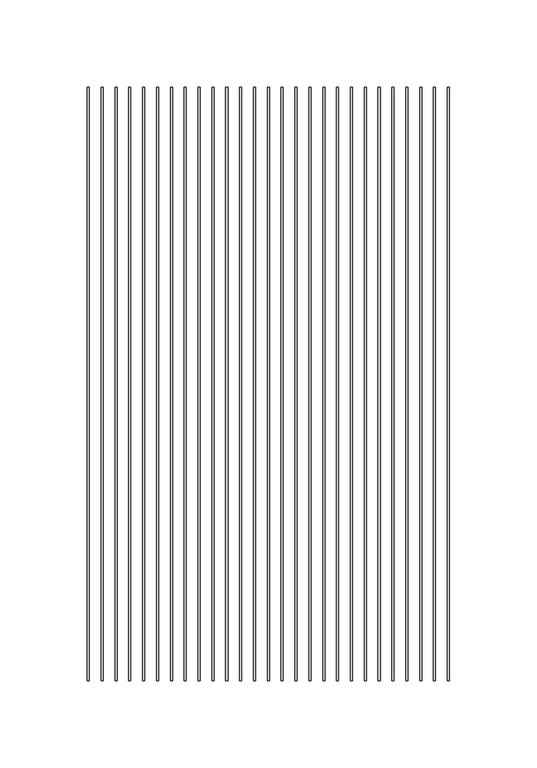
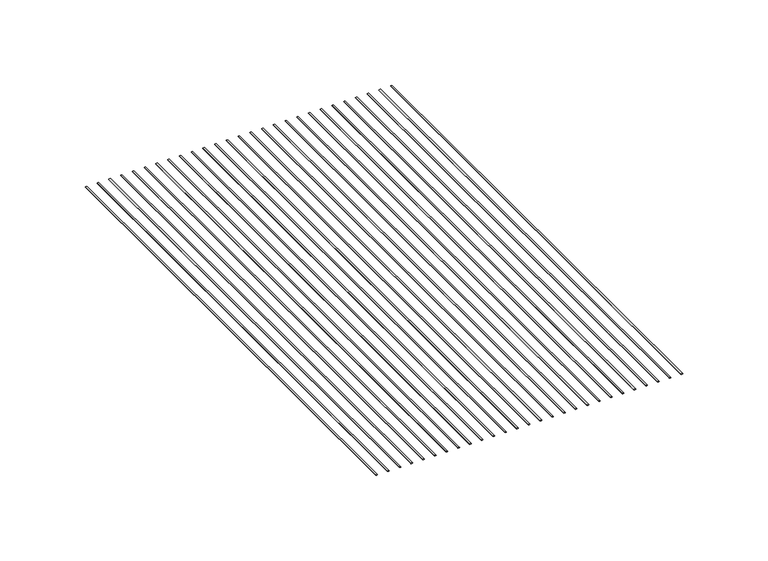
"""IFC4 building model written with IfcOpenShell, lengths in millimetres: proxy geometry, CRAi Generic Model Mesh Piece Face Based : Wider Mesh."""

from ifc_helpers import new_model, si_unit, point, frame, origin, place, context, project, spatial, ellipse_curve, trimmed, source, transform, mapped, element, save
from ifc_brep_helpers import plane_surface, extruded_surface, advanced_brep


def generic_models_e38217e9(model_context):
    return source(origin(), model_context, "Body", "AdvancedBrep", [
        advanced_brep(
        [(-14.0890625, -169.8625, -2.5796875), (-12.8984375, -169.8625, -2.5796875), (-14.0890625, 169.8625, -2.5796875), (-12.8984375, 169.8625, -2.5796875)],
        [
            (0, 1, ellipse_curve(frame((-13.49375, -169.8625, -2.5796875), z_axis=(0.0, -1.0, 0.0), x_axis=(1.0, 0.0, 0.0)), 0.5953125, 0.1984375)),
            (1, 0, ellipse_curve(frame((-13.49375, -169.8625, -2.5796875), z_axis=(0.0, -1.0, 0.0), x_axis=(1.0, 0.0, 0.0)), 0.5953125, 0.1984375)),
            (2, 3, ellipse_curve(frame((-13.49375, 169.8625, -2.5796875), z_axis=(0.0, 1.0, 0.0), x_axis=(1.0, 0.0, 0.0)), 0.5953125, 0.1984375)),
            (3, 2, ellipse_curve(frame((-13.49375, 169.8625, -2.5796875), z_axis=(0.0, 1.0, 0.0), x_axis=(1.0, 0.0, 0.0)), 0.5953125, 0.1984375)),
            (0, 2),
            (3, 1),
        ],
        [
            plane_surface(frame((-13.49375, -169.8625, -2.5796875), z_axis=(0.0, -1.0, 0.0), x_axis=(0.0, 0.0, 1.0))),
            plane_surface(frame((-13.49375, 169.8625, -2.5796875), z_axis=(0.0, 1.0, 0.0), x_axis=(0.0, 0.0, 1.0))),
            extruded_surface(trimmed(ellipse_curve(frame((-13.49375, 169.8625, -2.5796875), z_axis=(0.0, -1.0, 0.0), x_axis=(1.0, 0.0, 0.0)), 0.5953125, 0.1984375), [point((-14.0890625, 169.8625, -2.5796875))], [point((-12.8984375, 169.8625, -2.5796875))], True, "CARTESIAN"), (0.0, -339.725, 0.0), 339.725),
            extruded_surface(trimmed(ellipse_curve(frame((-13.49375, 169.8625, -2.5796875), z_axis=(0.0, -1.0, 0.0), x_axis=(1.0, 0.0, 0.0)), 0.5953125, 0.1984375), [point((-12.8984375, 169.8625, -2.5796875))], [point((-14.0890625, 169.8625, -2.5796875))], True, "CARTESIAN"), (0.0, -339.725, 0.0), 339.725),
        ],
        [
            (0, [[1, 2]]),
            (1, [[3, 4]]),
            (2, [[-1, 5, -4, 6]]),
            (3, [[-2, -6, -3, -5]]),
        ],
    ),
        advanced_brep(
        [(-6.1515625, -169.8625, -2.5796875), (-4.9609375, -169.8625, -2.5796875), (-6.1515625, 169.8625, -2.5796875), (-4.9609375, 169.8625, -2.5796875)],
        [
            (0, 1, ellipse_curve(frame((-5.55625, -169.8625, -2.5796875), z_axis=(0.0, -1.0, 0.0), x_axis=(1.0, 0.0, 0.0)), 0.5953125, 0.1984375)),
            (1, 0, ellipse_curve(frame((-5.55625, -169.8625, -2.5796875), z_axis=(0.0, -1.0, 0.0), x_axis=(1.0, 0.0, 0.0)), 0.5953125, 0.1984375)),
            (2, 3, ellipse_curve(frame((-5.55625, 169.8625, -2.5796875), z_axis=(0.0, 1.0, 0.0), x_axis=(1.0, 0.0, 0.0)), 0.5953125, 0.1984375)),
            (3, 2, ellipse_curve(frame((-5.55625, 169.8625, -2.5796875), z_axis=(0.0, 1.0, 0.0), x_axis=(1.0, 0.0, 0.0)), 0.5953125, 0.1984375)),
            (0, 2),
            (3, 1),
        ],
        [
            plane_surface(frame((-5.55625, -169.8625, -2.5796875), z_axis=(0.0, -1.0, 0.0), x_axis=(0.0, 0.0, 1.0))),
            plane_surface(frame((-5.55625, 169.8625, -2.5796875), z_axis=(0.0, 1.0, 0.0), x_axis=(0.0, 0.0, 1.0))),
            extruded_surface(trimmed(ellipse_curve(frame((-5.55625, 169.8625, -2.5796875), z_axis=(0.0, -1.0, 0.0), x_axis=(1.0, 0.0, 0.0)), 0.5953125, 0.1984375), [point((-6.1515625, 169.8625, -2.5796875))], [point((-4.9609375, 169.8625, -2.5796875))], True, "CARTESIAN"), (0.0, -339.725, 0.0), 339.725),
            extruded_surface(trimmed(ellipse_curve(frame((-5.55625, 169.8625, -2.5796875), z_axis=(0.0, -1.0, 0.0), x_axis=(1.0, 0.0, 0.0)), 0.5953125, 0.1984375), [point((-4.9609375, 169.8625, -2.5796875))], [point((-6.1515625, 169.8625, -2.5796875))], True, "CARTESIAN"), (0.0, -339.725, 0.0), 339.725),
        ],
        [
            (0, [[1, 2]]),
            (1, [[3, 4]]),
            (2, [[-1, 5, -4, 6]]),
            (3, [[-2, -6, -3, -5]]),
        ],
    ),
        advanced_brep(
        [(1.7859375, -169.8625, -2.5796875), (2.9765625, -169.8625, -2.5796875), (1.7859375, 169.8625, -2.5796875), (2.9765625, 169.8625, -2.5796875)],
        [
            (0, 1, ellipse_curve(frame((2.38125, -169.8625, -2.5796875), z_axis=(0.0, -1.0, 0.0), x_axis=(1.0, 0.0, 0.0)), 0.5953125, 0.1984375)),
            (1, 0, ellipse_curve(frame((2.38125, -169.8625, -2.5796875), z_axis=(0.0, -1.0, 0.0), x_axis=(1.0, 0.0, 0.0)), 0.5953125, 0.1984375)),
            (2, 3, ellipse_curve(frame((2.38125, 169.8625, -2.5796875), z_axis=(0.0, 1.0, 0.0), x_axis=(1.0, 0.0, 0.0)), 0.5953125, 0.1984375)),
            (3, 2, ellipse_curve(frame((2.38125, 169.8625, -2.5796875), z_axis=(0.0, 1.0, 0.0), x_axis=(1.0, 0.0, 0.0)), 0.5953125, 0.1984375)),
            (0, 2),
            (3, 1),
        ],
        [
            plane_surface(frame((2.38125, -169.8625, -2.5796875), z_axis=(0.0, -1.0, 0.0), x_axis=(0.0, 0.0, 1.0))),
            plane_surface(frame((2.38125, 169.8625, -2.5796875), z_axis=(0.0, 1.0, 0.0), x_axis=(0.0, 0.0, 1.0))),
            extruded_surface(trimmed(ellipse_curve(frame((2.38125, 169.8625, -2.5796875), z_axis=(0.0, -1.0, 0.0), x_axis=(1.0, 0.0, 0.0)), 0.5953125, 0.1984375), [point((1.7859375, 169.8625, -2.5796875))], [point((2.9765625, 169.8625, -2.5796875))], True, "CARTESIAN"), (0.0, -339.725, 0.0), 339.725),
            extruded_surface(trimmed(ellipse_curve(frame((2.38125, 169.8625, -2.5796875), z_axis=(0.0, -1.0, 0.0), x_axis=(1.0, 0.0, 0.0)), 0.5953125, 0.1984375), [point((2.9765625, 169.8625, -2.5796875))], [point((1.7859375, 169.8625, -2.5796875))], True, "CARTESIAN"), (0.0, -339.725, 0.0), 339.725),
        ],
        [
            (0, [[1, 2]]),
            (1, [[3, 4]]),
            (2, [[-1, 5, -4, 6]]),
            (3, [[-2, -6, -3, -5]]),
        ],
    ),
        advanced_brep(
        [(9.7234375, -169.8625, -2.5796875), (10.9140625, -169.8625, -2.5796875), (9.7234375, 169.8625, -2.5796875), (10.9140625, 169.8625, -2.5796875)],
        [
            (0, 1, ellipse_curve(frame((10.31875, -169.8625, -2.5796875), z_axis=(0.0, -1.0, 0.0), x_axis=(1.0, 0.0, 0.0)), 0.5953125, 0.1984375)),
            (1, 0, ellipse_curve(frame((10.31875, -169.8625, -2.5796875), z_axis=(0.0, -1.0, 0.0), x_axis=(1.0, 0.0, 0.0)), 0.5953125, 0.1984375)),
            (2, 3, ellipse_curve(frame((10.31875, 169.8625, -2.5796875), z_axis=(0.0, 1.0, 0.0), x_axis=(1.0, 0.0, 0.0)), 0.5953125, 0.1984375)),
            (3, 2, ellipse_curve(frame((10.31875, 169.8625, -2.5796875), z_axis=(0.0, 1.0, 0.0), x_axis=(1.0, 0.0, 0.0)), 0.5953125, 0.1984375)),
            (0, 2),
            (3, 1),
        ],
        [
            plane_surface(frame((10.31875, -169.8625, -2.5796875), z_axis=(0.0, -1.0, 0.0), x_axis=(0.0, 0.0, 1.0))),
            plane_surface(frame((10.31875, 169.8625, -2.5796875), z_axis=(0.0, 1.0, 0.0), x_axis=(0.0, 0.0, 1.0))),
            extruded_surface(trimmed(ellipse_curve(frame((10.31875, 169.8625, -2.5796875), z_axis=(0.0, -1.0, 0.0), x_axis=(1.0, 0.0, 0.0)), 0.5953125, 0.1984375), [point((9.7234375, 169.8625, -2.5796875))], [point((10.9140625, 169.8625, -2.5796875))], True, "CARTESIAN"), (0.0, -339.725, 0.0), 339.725),
            extruded_surface(trimmed(ellipse_curve(frame((10.31875, 169.8625, -2.5796875), z_axis=(0.0, -1.0, 0.0), x_axis=(1.0, 0.0, 0.0)), 0.5953125, 0.1984375), [point((10.9140625, 169.8625, -2.5796875))], [point((9.7234375, 169.8625, -2.5796875))], True, "CARTESIAN"), (0.0, -339.725, 0.0), 339.725),
        ],
        [
            (0, [[1, 2]]),
            (1, [[3, 4]]),
            (2, [[-1, 5, -4, 6]]),
            (3, [[-2, -6, -3, -5]]),
        ],
    ),
        advanced_brep(
        [(17.6609375, -169.8625, -2.5796875), (18.8515625, -169.8625, -2.5796875), (17.6609375, 169.8625, -2.5796875), (18.8515625, 169.8625, -2.5796875)],
        [
            (0, 1, ellipse_curve(frame((18.25625, -169.8625, -2.5796875), z_axis=(0.0, -1.0, 0.0), x_axis=(1.0, 0.0, 0.0)), 0.5953125, 0.1984375)),
            (1, 0, ellipse_curve(frame((18.25625, -169.8625, -2.5796875), z_axis=(0.0, -1.0, 0.0), x_axis=(1.0, 0.0, 0.0)), 0.5953125, 0.1984375)),
            (2, 3, ellipse_curve(frame((18.25625, 169.8625, -2.5796875), z_axis=(0.0, 1.0, 0.0), x_axis=(1.0, 0.0, 0.0)), 0.5953125, 0.1984375)),
            (3, 2, ellipse_curve(frame((18.25625, 169.8625, -2.5796875), z_axis=(0.0, 1.0, 0.0), x_axis=(1.0, 0.0, 0.0)), 0.5953125, 0.1984375)),
            (0, 2),
            (3, 1),
        ],
        [
            plane_surface(frame((18.25625, -169.8625, -2.5796875), z_axis=(0.0, -1.0, 0.0), x_axis=(0.0, 0.0, 1.0))),
            plane_surface(frame((18.25625, 169.8625, -2.5796875), z_axis=(0.0, 1.0, 0.0), x_axis=(0.0, 0.0, 1.0))),
            extruded_surface(trimmed(ellipse_curve(frame((18.25625, 169.8625, -2.5796875), z_axis=(0.0, -1.0, 0.0), x_axis=(1.0, 0.0, 0.0)), 0.5953125, 0.1984375), [point((17.6609375, 169.8625, -2.5796875))], [point((18.8515625, 169.8625, -2.5796875))], True, "CARTESIAN"), (0.0, -339.725, 0.0), 339.725),
            extruded_surface(trimmed(ellipse_curve(frame((18.25625, 169.8625, -2.5796875), z_axis=(0.0, -1.0, 0.0), x_axis=(1.0, 0.0, 0.0)), 0.5953125, 0.1984375), [point((18.8515625, 169.8625, -2.5796875))], [point((17.6609375, 169.8625, -2.5796875))], True, "CARTESIAN"), (0.0, -339.725, 0.0), 339.725),
        ],
        [
            (0, [[1, 2]]),
            (1, [[3, 4]]),
            (2, [[-1, 5, -4, 6]]),
            (3, [[-2, -6, -3, -5]]),
        ],
    ),
        advanced_brep(
        [(25.5984375, -169.8625, -2.5796875), (26.7890625, -169.8625, -2.5796875), (25.5984375, 169.8625, -2.5796875), (26.7890625, 169.8625, -2.5796875)],
        [
            (0, 1, ellipse_curve(frame((26.19375, -169.8625, -2.5796875), z_axis=(0.0, -1.0, 0.0), x_axis=(1.0, 0.0, 0.0)), 0.5953125, 0.1984375)),
            (1, 0, ellipse_curve(frame((26.19375, -169.8625, -2.5796875), z_axis=(0.0, -1.0, 0.0), x_axis=(1.0, 0.0, 0.0)), 0.5953125, 0.1984375)),
            (2, 3, ellipse_curve(frame((26.19375, 169.8625, -2.5796875), z_axis=(0.0, 1.0, 0.0), x_axis=(1.0, 0.0, 0.0)), 0.5953125, 0.1984375)),
            (3, 2, ellipse_curve(frame((26.19375, 169.8625, -2.5796875), z_axis=(0.0, 1.0, 0.0), x_axis=(1.0, 0.0, 0.0)), 0.5953125, 0.1984375)),
            (0, 2),
            (3, 1),
        ],
        [
            plane_surface(frame((26.19375, -169.8625, -2.5796875), z_axis=(0.0, -1.0, 0.0), x_axis=(0.0, 0.0, 1.0))),
            plane_surface(frame((26.19375, 169.8625, -2.5796875), z_axis=(0.0, 1.0, 0.0), x_axis=(0.0, 0.0, 1.0))),
            extruded_surface(trimmed(ellipse_curve(frame((26.19375, 169.8625, -2.5796875), z_axis=(0.0, -1.0, 0.0), x_axis=(1.0, 0.0, 0.0)), 0.5953125, 0.1984375), [point((25.5984375, 169.8625, -2.5796875))], [point((26.7890625, 169.8625, -2.5796875))], True, "CARTESIAN"), (0.0, -339.725, 0.0), 339.725),
            extruded_surface(trimmed(ellipse_curve(frame((26.19375, 169.8625, -2.5796875), z_axis=(0.0, -1.0, 0.0), x_axis=(1.0, 0.0, 0.0)), 0.5953125, 0.1984375), [point((26.7890625, 169.8625, -2.5796875))], [point((25.5984375, 169.8625, -2.5796875))], True, "CARTESIAN"), (0.0, -339.725, 0.0), 339.725),
        ],
        [
            (0, [[1, 2]]),
            (1, [[3, 4]]),
            (2, [[-1, 5, -4, 6]]),
            (3, [[-2, -6, -3, -5]]),
        ],
    ),
        advanced_brep(
        [(33.5359375, -169.8625, -2.5796875), (34.7265625, -169.8625, -2.5796875), (33.5359375, 169.8625, -2.5796875), (34.7265625, 169.8625, -2.5796875)],
        [
            (0, 1, ellipse_curve(frame((34.13125, -169.8625, -2.5796875), z_axis=(0.0, -1.0, 0.0), x_axis=(1.0, 0.0, 0.0)), 0.5953125, 0.1984375)),
            (1, 0, ellipse_curve(frame((34.13125, -169.8625, -2.5796875), z_axis=(0.0, -1.0, 0.0), x_axis=(1.0, 0.0, 0.0)), 0.5953125, 0.1984375)),
            (2, 3, ellipse_curve(frame((34.13125, 169.8625, -2.5796875), z_axis=(0.0, 1.0, 0.0), x_axis=(1.0, 0.0, 0.0)), 0.5953125, 0.1984375)),
            (3, 2, ellipse_curve(frame((34.13125, 169.8625, -2.5796875), z_axis=(0.0, 1.0, 0.0), x_axis=(1.0, 0.0, 0.0)), 0.5953125, 0.1984375)),
            (0, 2),
            (3, 1),
        ],
        [
            plane_surface(frame((34.13125, -169.8625, -2.5796875), z_axis=(0.0, -1.0, 0.0), x_axis=(0.0, 0.0, 1.0))),
            plane_surface(frame((34.13125, 169.8625, -2.5796875), z_axis=(0.0, 1.0, 0.0), x_axis=(0.0, 0.0, 1.0))),
            extruded_surface(trimmed(ellipse_curve(frame((34.13125, 169.8625, -2.5796875), z_axis=(0.0, -1.0, 0.0), x_axis=(1.0, 0.0, 0.0)), 0.5953125, 0.1984375), [point((33.5359375, 169.8625, -2.5796875))], [point((34.7265625, 169.8625, -2.5796875))], True, "CARTESIAN"), (0.0, -339.725, 0.0), 339.725),
            extruded_surface(trimmed(ellipse_curve(frame((34.13125, 169.8625, -2.5796875), z_axis=(0.0, -1.0, 0.0), x_axis=(1.0, 0.0, 0.0)), 0.5953125, 0.1984375), [point((34.7265625, 169.8625, -2.5796875))], [point((33.5359375, 169.8625, -2.5796875))], True, "CARTESIAN"), (0.0, -339.725, 0.0), 339.725),
        ],
        [
            (0, [[1, 2]]),
            (1, [[3, 4]]),
            (2, [[-1, 5, -4, 6]]),
            (3, [[-2, -6, -3, -5]]),
        ],
    ),
        advanced_brep(
        [(41.4734375, -169.8625, -2.5796875), (42.6640625, -169.8625, -2.5796875), (41.4734375, 169.8625, -2.5796875), (42.6640625, 169.8625, -2.5796875)],
        [
            (0, 1, ellipse_curve(frame((42.06875, -169.8625, -2.5796875), z_axis=(0.0, -1.0, 0.0), x_axis=(1.0, 0.0, 0.0)), 0.5953125, 0.1984375)),
            (1, 0, ellipse_curve(frame((42.06875, -169.8625, -2.5796875), z_axis=(0.0, -1.0, 0.0), x_axis=(1.0, 0.0, 0.0)), 0.5953125, 0.1984375)),
            (2, 3, ellipse_curve(frame((42.06875, 169.8625, -2.5796875), z_axis=(0.0, 1.0, 0.0), x_axis=(1.0, 0.0, 0.0)), 0.5953125, 0.1984375)),
            (3, 2, ellipse_curve(frame((42.06875, 169.8625, -2.5796875), z_axis=(0.0, 1.0, 0.0), x_axis=(1.0, 0.0, 0.0)), 0.5953125, 0.1984375)),
            (0, 2),
            (3, 1),
        ],
        [
            plane_surface(frame((42.06875, -169.8625, -2.5796875), z_axis=(0.0, -1.0, 0.0), x_axis=(0.0, 0.0, 1.0))),
            plane_surface(frame((42.06875, 169.8625, -2.5796875), z_axis=(0.0, 1.0, 0.0), x_axis=(0.0, 0.0, 1.0))),
            extruded_surface(trimmed(ellipse_curve(frame((42.06875, 169.8625, -2.5796875), z_axis=(0.0, -1.0, 0.0), x_axis=(1.0, 0.0, 0.0)), 0.5953125, 0.1984375), [point((41.4734375, 169.8625, -2.5796875))], [point((42.6640625, 169.8625, -2.5796875))], True, "CARTESIAN"), (0.0, -339.725, 0.0), 339.725),
            extruded_surface(trimmed(ellipse_curve(frame((42.06875, 169.8625, -2.5796875), z_axis=(0.0, -1.0, 0.0), x_axis=(1.0, 0.0, 0.0)), 0.5953125, 0.1984375), [point((42.6640625, 169.8625, -2.5796875))], [point((41.4734375, 169.8625, -2.5796875))], True, "CARTESIAN"), (0.0, -339.725, 0.0), 339.725),
        ],
        [
            (0, [[1, 2]]),
            (1, [[3, 4]]),
            (2, [[-1, 5, -4, 6]]),
            (3, [[-2, -6, -3, -5]]),
        ],
    ),
        advanced_brep(
        [(49.4109375, -169.8625, -2.5796875), (50.6015625, -169.8625, -2.5796875), (49.4109375, 169.8625, -2.5796875), (50.6015625, 169.8625, -2.5796875)],
        [
            (0, 1, ellipse_curve(frame((50.00625, -169.8625, -2.5796875), z_axis=(0.0, -1.0, 0.0), x_axis=(1.0, 0.0, 0.0)), 0.5953125, 0.1984375)),
            (1, 0, ellipse_curve(frame((50.00625, -169.8625, -2.5796875), z_axis=(0.0, -1.0, 0.0), x_axis=(1.0, 0.0, 0.0)), 0.5953125, 0.1984375)),
            (2, 3, ellipse_curve(frame((50.00625, 169.8625, -2.5796875), z_axis=(0.0, 1.0, 0.0), x_axis=(1.0, 0.0, 0.0)), 0.5953125, 0.1984375)),
            (3, 2, ellipse_curve(frame((50.00625, 169.8625, -2.5796875), z_axis=(0.0, 1.0, 0.0), x_axis=(1.0, 0.0, 0.0)), 0.5953125, 0.1984375)),
            (0, 2),
            (3, 1),
        ],
        [
            plane_surface(frame((50.00625, -169.8625, -2.5796875), z_axis=(0.0, -1.0, 0.0), x_axis=(0.0, 0.0, 1.0))),
            plane_surface(frame((50.00625, 169.8625, -2.5796875), z_axis=(0.0, 1.0, 0.0), x_axis=(0.0, 0.0, 1.0))),
            extruded_surface(trimmed(ellipse_curve(frame((50.00625, 169.8625, -2.5796875), z_axis=(0.0, -1.0, 0.0), x_axis=(1.0, 0.0, 0.0)), 0.5953125, 0.1984375), [point((49.4109375, 169.8625, -2.5796875))], [point((50.6015625, 169.8625, -2.5796875))], True, "CARTESIAN"), (0.0, -339.725, 0.0), 339.725),
            extruded_surface(trimmed(ellipse_curve(frame((50.00625, 169.8625, -2.5796875), z_axis=(0.0, -1.0, 0.0), x_axis=(1.0, 0.0, 0.0)), 0.5953125, 0.1984375), [point((50.6015625, 169.8625, -2.5796875))], [point((49.4109375, 169.8625, -2.5796875))], True, "CARTESIAN"), (0.0, -339.725, 0.0), 339.725),
        ],
        [
            (0, [[1, 2]]),
            (1, [[3, 4]]),
            (2, [[-1, 5, -4, 6]]),
            (3, [[-2, -6, -3, -5]]),
        ],
    ),
        advanced_brep(
        [(57.3484375, -169.8625, -2.5796875), (58.5390625, -169.8625, -2.5796875), (57.3484375, 169.8625, -2.5796875), (58.5390625, 169.8625, -2.5796875)],
        [
            (0, 1, ellipse_curve(frame((57.94375, -169.8625, -2.5796875), z_axis=(0.0, -1.0, 0.0), x_axis=(1.0, 0.0, 0.0)), 0.5953125, 0.1984375)),
            (1, 0, ellipse_curve(frame((57.94375, -169.8625, -2.5796875), z_axis=(0.0, -1.0, 0.0), x_axis=(1.0, 0.0, 0.0)), 0.5953125, 0.1984375)),
            (2, 3, ellipse_curve(frame((57.94375, 169.8625, -2.5796875), z_axis=(0.0, 1.0, 0.0), x_axis=(1.0, 0.0, 0.0)), 0.5953125, 0.1984375)),
            (3, 2, ellipse_curve(frame((57.94375, 169.8625, -2.5796875), z_axis=(0.0, 1.0, 0.0), x_axis=(1.0, 0.0, 0.0)), 0.5953125, 0.1984375)),
            (0, 2),
            (3, 1),
        ],
        [
            plane_surface(frame((57.94375, -169.8625, -2.5796875), z_axis=(0.0, -1.0, 0.0), x_axis=(0.0, 0.0, 1.0))),
            plane_surface(frame((57.94375, 169.8625, -2.5796875), z_axis=(0.0, 1.0, 0.0), x_axis=(0.0, 0.0, 1.0))),
            extruded_surface(trimmed(ellipse_curve(frame((57.94375, 169.8625, -2.5796875), z_axis=(0.0, -1.0, 0.0), x_axis=(1.0, 0.0, 0.0)), 0.5953125, 0.1984375), [point((57.3484375, 169.8625, -2.5796875))], [point((58.5390625, 169.8625, -2.5796875))], True, "CARTESIAN"), (0.0, -339.725, 0.0), 339.725),
            extruded_surface(trimmed(ellipse_curve(frame((57.94375, 169.8625, -2.5796875), z_axis=(0.0, -1.0, 0.0), x_axis=(1.0, 0.0, 0.0)), 0.5953125, 0.1984375), [point((58.5390625, 169.8625, -2.5796875))], [point((57.3484375, 169.8625, -2.5796875))], True, "CARTESIAN"), (0.0, -339.725, 0.0), 339.725),
        ],
        [
            (0, [[1, 2]]),
            (1, [[3, 4]]),
            (2, [[-1, 5, -4, 6]]),
            (3, [[-2, -6, -3, -5]]),
        ],
    ),
        advanced_brep(
        [(65.2859375, -169.8625, -2.5796875), (66.4765625, -169.8625, -2.5796875), (65.2859375, 169.8625, -2.5796875), (66.4765625, 169.8625, -2.5796875)],
        [
            (0, 1, ellipse_curve(frame((65.88125, -169.8625, -2.5796875), z_axis=(0.0, -1.0, 0.0), x_axis=(1.0, 0.0, 0.0)), 0.5953125, 0.1984375)),
            (1, 0, ellipse_curve(frame((65.88125, -169.8625, -2.5796875), z_axis=(0.0, -1.0, 0.0), x_axis=(1.0, 0.0, 0.0)), 0.5953125, 0.1984375)),
            (2, 3, ellipse_curve(frame((65.88125, 169.8625, -2.5796875), z_axis=(0.0, 1.0, 0.0), x_axis=(1.0, 0.0, 0.0)), 0.5953125, 0.1984375)),
            (3, 2, ellipse_curve(frame((65.88125, 169.8625, -2.5796875), z_axis=(0.0, 1.0, 0.0), x_axis=(1.0, 0.0, 0.0)), 0.5953125, 0.1984375)),
            (0, 2),
            (3, 1),
        ],
        [
            plane_surface(frame((65.88125, -169.8625, -2.5796875), z_axis=(0.0, -1.0, 0.0), x_axis=(0.0, 0.0, 1.0))),
            plane_surface(frame((65.88125, 169.8625, -2.5796875), z_axis=(0.0, 1.0, 0.0), x_axis=(0.0, 0.0, 1.0))),
            extruded_surface(trimmed(ellipse_curve(frame((65.88125, 169.8625, -2.5796875), z_axis=(0.0, -1.0, 0.0), x_axis=(1.0, 0.0, 0.0)), 0.5953125, 0.1984375), [point((65.2859375, 169.8625, -2.5796875))], [point((66.4765625, 169.8625, -2.5796875))], True, "CARTESIAN"), (0.0, -339.725, 0.0), 339.725),
            extruded_surface(trimmed(ellipse_curve(frame((65.88125, 169.8625, -2.5796875), z_axis=(0.0, -1.0, 0.0), x_axis=(1.0, 0.0, 0.0)), 0.5953125, 0.1984375), [point((66.4765625, 169.8625, -2.5796875))], [point((65.2859375, 169.8625, -2.5796875))], True, "CARTESIAN"), (0.0, -339.725, 0.0), 339.725),
        ],
        [
            (0, [[1, 2]]),
            (1, [[3, 4]]),
            (2, [[-1, 5, -4, 6]]),
            (3, [[-2, -6, -3, -5]]),
        ],
    ),
        advanced_brep(
        [(73.2234375, -169.8625, -2.5796875), (74.4140625, -169.8625, -2.5796875), (73.2234375, 169.8625, -2.5796875), (74.4140625, 169.8625, -2.5796875)],
        [
            (0, 1, ellipse_curve(frame((73.81875, -169.8625, -2.5796875), z_axis=(0.0, -1.0, 0.0), x_axis=(1.0, 0.0, 0.0)), 0.5953125, 0.1984375)),
            (1, 0, ellipse_curve(frame((73.81875, -169.8625, -2.5796875), z_axis=(0.0, -1.0, 0.0), x_axis=(1.0, 0.0, 0.0)), 0.5953125, 0.1984375)),
            (2, 3, ellipse_curve(frame((73.81875, 169.8625, -2.5796875), z_axis=(0.0, 1.0, 0.0), x_axis=(1.0, 0.0, 0.0)), 0.5953125, 0.1984375)),
            (3, 2, ellipse_curve(frame((73.81875, 169.8625, -2.5796875), z_axis=(0.0, 1.0, 0.0), x_axis=(1.0, 0.0, 0.0)), 0.5953125, 0.1984375)),
            (0, 2),
            (3, 1),
        ],
        [
            plane_surface(frame((73.81875, -169.8625, -2.5796875), z_axis=(0.0, -1.0, 0.0), x_axis=(0.0, 0.0, 1.0))),
            plane_surface(frame((73.81875, 169.8625, -2.5796875), z_axis=(0.0, 1.0, 0.0), x_axis=(0.0, 0.0, 1.0))),
            extruded_surface(trimmed(ellipse_curve(frame((73.81875, 169.8625, -2.5796875), z_axis=(0.0, -1.0, 0.0), x_axis=(1.0, 0.0, 0.0)), 0.5953125, 0.1984375), [point((73.2234375, 169.8625, -2.5796875))], [point((74.4140625, 169.8625, -2.5796875))], True, "CARTESIAN"), (0.0, -339.725, 0.0), 339.725),
            extruded_surface(trimmed(ellipse_curve(frame((73.81875, 169.8625, -2.5796875), z_axis=(0.0, -1.0, 0.0), x_axis=(1.0, 0.0, 0.0)), 0.5953125, 0.1984375), [point((74.4140625, 169.8625, -2.5796875))], [point((73.2234375, 169.8625, -2.5796875))], True, "CARTESIAN"), (0.0, -339.725, 0.0), 339.725),
        ],
        [
            (0, [[1, 2]]),
            (1, [[3, 4]]),
            (2, [[-1, 5, -4, 6]]),
            (3, [[-2, -6, -3, -5]]),
        ],
    ),
        advanced_brep(
        [(81.1609375, -169.8625, -2.5796875), (82.3515625, -169.8625, -2.5796875), (81.1609375, 169.8625, -2.5796875), (82.3515625, 169.8625, -2.5796875)],
        [
            (0, 1, ellipse_curve(frame((81.75625, -169.8625, -2.5796875), z_axis=(0.0, -1.0, 0.0), x_axis=(1.0, 0.0, 0.0)), 0.5953125, 0.1984375)),
            (1, 0, ellipse_curve(frame((81.75625, -169.8625, -2.5796875), z_axis=(0.0, -1.0, 0.0), x_axis=(1.0, 0.0, 0.0)), 0.5953125, 0.1984375)),
            (2, 3, ellipse_curve(frame((81.75625, 169.8625, -2.5796875), z_axis=(0.0, 1.0, 0.0), x_axis=(1.0, 0.0, 0.0)), 0.5953125, 0.1984375)),
            (3, 2, ellipse_curve(frame((81.75625, 169.8625, -2.5796875), z_axis=(0.0, 1.0, 0.0), x_axis=(1.0, 0.0, 0.0)), 0.5953125, 0.1984375)),
            (0, 2),
            (3, 1),
        ],
        [
            plane_surface(frame((81.75625, -169.8625, -2.5796875), z_axis=(0.0, -1.0, 0.0), x_axis=(0.0, 0.0, 1.0))),
            plane_surface(frame((81.75625, 169.8625, -2.5796875), z_axis=(0.0, 1.0, 0.0), x_axis=(0.0, 0.0, 1.0))),
            extruded_surface(trimmed(ellipse_curve(frame((81.75625, 169.8625, -2.5796875), z_axis=(0.0, -1.0, 0.0), x_axis=(1.0, 0.0, 0.0)), 0.5953125, 0.1984375), [point((81.1609375, 169.8625, -2.5796875))], [point((82.3515625, 169.8625, -2.5796875))], True, "CARTESIAN"), (0.0, -339.725, 0.0), 339.725),
            extruded_surface(trimmed(ellipse_curve(frame((81.75625, 169.8625, -2.5796875), z_axis=(0.0, -1.0, 0.0), x_axis=(1.0, 0.0, 0.0)), 0.5953125, 0.1984375), [point((82.3515625, 169.8625, -2.5796875))], [point((81.1609375, 169.8625, -2.5796875))], True, "CARTESIAN"), (0.0, -339.725, 0.0), 339.725),
        ],
        [
            (0, [[1, 2]]),
            (1, [[3, 4]]),
            (2, [[-1, 5, -4, 6]]),
            (3, [[-2, -6, -3, -5]]),
        ],
    ),
        advanced_brep(
        [(89.0984375, -169.8625, -2.5796875), (90.2890625, -169.8625, -2.5796875), (89.0984375, 169.8625, -2.5796875), (90.2890625, 169.8625, -2.5796875)],
        [
            (0, 1, ellipse_curve(frame((89.69375, -169.8625, -2.5796875), z_axis=(0.0, -1.0, 0.0), x_axis=(1.0, 0.0, 0.0)), 0.5953125, 0.1984375)),
            (1, 0, ellipse_curve(frame((89.69375, -169.8625, -2.5796875), z_axis=(0.0, -1.0, 0.0), x_axis=(1.0, 0.0, 0.0)), 0.5953125, 0.1984375)),
            (2, 3, ellipse_curve(frame((89.69375, 169.8625, -2.5796875), z_axis=(0.0, 1.0, 0.0), x_axis=(1.0, 0.0, 0.0)), 0.5953125, 0.1984375)),
            (3, 2, ellipse_curve(frame((89.69375, 169.8625, -2.5796875), z_axis=(0.0, 1.0, 0.0), x_axis=(1.0, 0.0, 0.0)), 0.5953125, 0.1984375)),
            (0, 2),
            (3, 1),
        ],
        [
            plane_surface(frame((89.69375, -169.8625, -2.5796875), z_axis=(0.0, -1.0, 0.0), x_axis=(0.0, 0.0, 1.0))),
            plane_surface(frame((89.69375, 169.8625, -2.5796875), z_axis=(0.0, 1.0, 0.0), x_axis=(0.0, 0.0, 1.0))),
            extruded_surface(trimmed(ellipse_curve(frame((89.69375, 169.8625, -2.5796875), z_axis=(0.0, -1.0, 0.0), x_axis=(1.0, 0.0, 0.0)), 0.5953125, 0.1984375), [point((89.0984375, 169.8625, -2.5796875))], [point((90.2890625, 169.8625, -2.5796875))], True, "CARTESIAN"), (0.0, -339.725, 0.0), 339.725),
            extruded_surface(trimmed(ellipse_curve(frame((89.69375, 169.8625, -2.5796875), z_axis=(0.0, -1.0, 0.0), x_axis=(1.0, 0.0, 0.0)), 0.5953125, 0.1984375), [point((90.2890625, 169.8625, -2.5796875))], [point((89.0984375, 169.8625, -2.5796875))], True, "CARTESIAN"), (0.0, -339.725, 0.0), 339.725),
        ],
        [
            (0, [[1, 2]]),
            (1, [[3, 4]]),
            (2, [[-1, 5, -4, 6]]),
            (3, [[-2, -6, -3, -5]]),
        ],
    ),
        advanced_brep(
        [(97.0359375, -169.8625, -2.5796875), (98.2265625, -169.8625, -2.5796875), (97.0359375, 169.8625, -2.5796875), (98.2265625, 169.8625, -2.5796875)],
        [
            (0, 1, ellipse_curve(frame((97.63125, -169.8625, -2.5796875), z_axis=(0.0, -1.0, 0.0), x_axis=(1.0, 0.0, 0.0)), 0.5953125, 0.1984375)),
            (1, 0, ellipse_curve(frame((97.63125, -169.8625, -2.5796875), z_axis=(0.0, -1.0, 0.0), x_axis=(1.0, 0.0, 0.0)), 0.5953125, 0.1984375)),
            (2, 3, ellipse_curve(frame((97.63125, 169.8625, -2.5796875), z_axis=(0.0, 1.0, 0.0), x_axis=(1.0, 0.0, 0.0)), 0.5953125, 0.1984375)),
            (3, 2, ellipse_curve(frame((97.63125, 169.8625, -2.5796875), z_axis=(0.0, 1.0, 0.0), x_axis=(1.0, 0.0, 0.0)), 0.5953125, 0.1984375)),
            (0, 2),
            (3, 1),
        ],
        [
            plane_surface(frame((97.63125, -169.8625, -2.5796875), z_axis=(0.0, -1.0, 0.0), x_axis=(0.0, 0.0, 1.0))),
            plane_surface(frame((97.63125, 169.8625, -2.5796875), z_axis=(0.0, 1.0, 0.0), x_axis=(0.0, 0.0, 1.0))),
            extruded_surface(trimmed(ellipse_curve(frame((97.63125, 169.8625, -2.5796875), z_axis=(0.0, -1.0, 0.0), x_axis=(1.0, 0.0, 0.0)), 0.5953125, 0.1984375), [point((97.0359375, 169.8625, -2.5796875))], [point((98.2265625, 169.8625, -2.5796875))], True, "CARTESIAN"), (0.0, -339.725, 0.0), 339.725),
            extruded_surface(trimmed(ellipse_curve(frame((97.63125, 169.8625, -2.5796875), z_axis=(0.0, -1.0, 0.0), x_axis=(1.0, 0.0, 0.0)), 0.5953125, 0.1984375), [point((98.2265625, 169.8625, -2.5796875))], [point((97.0359375, 169.8625, -2.5796875))], True, "CARTESIAN"), (0.0, -339.725, 0.0), 339.725),
        ],
        [
            (0, [[1, 2]]),
            (1, [[3, 4]]),
            (2, [[-1, 5, -4, 6]]),
            (3, [[-2, -6, -3, -5]]),
        ],
    ),
        advanced_brep(
        [(104.9734375, -169.8625, -2.5796875), (106.1640625, -169.8625, -2.5796875), (104.9734375, 169.8625, -2.5796875), (106.1640625, 169.8625, -2.5796875)],
        [
            (0, 1, ellipse_curve(frame((105.56875, -169.8625, -2.5796875), z_axis=(0.0, -1.0, 0.0), x_axis=(1.0, 0.0, 0.0)), 0.5953125, 0.1984375)),
            (1, 0, ellipse_curve(frame((105.56875, -169.8625, -2.5796875), z_axis=(0.0, -1.0, 0.0), x_axis=(1.0, 0.0, 0.0)), 0.5953125, 0.1984375)),
            (2, 3, ellipse_curve(frame((105.56875, 169.8625, -2.5796875), z_axis=(0.0, 1.0, 0.0), x_axis=(1.0, 0.0, 0.0)), 0.5953125, 0.1984375)),
            (3, 2, ellipse_curve(frame((105.56875, 169.8625, -2.5796875), z_axis=(0.0, 1.0, 0.0), x_axis=(1.0, 0.0, 0.0)), 0.5953125, 0.1984375)),
            (0, 2),
            (3, 1),
        ],
        [
            plane_surface(frame((105.56875, -169.8625, -2.5796875), z_axis=(0.0, -1.0, 0.0), x_axis=(0.0, 0.0, 1.0))),
            plane_surface(frame((105.56875, 169.8625, -2.5796875), z_axis=(0.0, 1.0, 0.0), x_axis=(0.0, 0.0, 1.0))),
            extruded_surface(trimmed(ellipse_curve(frame((105.56875, 169.8625, -2.5796875), z_axis=(0.0, -1.0, 0.0), x_axis=(1.0, 0.0, 0.0)), 0.5953125, 0.1984375), [point((104.9734375, 169.8625, -2.5796875))], [point((106.1640625, 169.8625, -2.5796875))], True, "CARTESIAN"), (0.0, -339.725, 0.0), 339.725),
            extruded_surface(trimmed(ellipse_curve(frame((105.56875, 169.8625, -2.5796875), z_axis=(0.0, -1.0, 0.0), x_axis=(1.0, 0.0, 0.0)), 0.5953125, 0.1984375), [point((106.1640625, 169.8625, -2.5796875))], [point((104.9734375, 169.8625, -2.5796875))], True, "CARTESIAN"), (0.0, -339.725, 0.0), 339.725),
        ],
        [
            (0, [[1, 2]]),
            (1, [[3, 4]]),
            (2, [[-1, 5, -4, 6]]),
            (3, [[-2, -6, -3, -5]]),
        ],
    ),
        advanced_brep(
        [(112.9109375, -169.8625, -2.5796875), (114.1015625, -169.8625, -2.5796875), (112.9109375, 169.8625, -2.5796875), (114.1015625, 169.8625, -2.5796875)],
        [
            (0, 1, ellipse_curve(frame((113.50625, -169.8625, -2.5796875), z_axis=(0.0, -1.0, 0.0), x_axis=(1.0, 0.0, 0.0)), 0.5953125, 0.1984375)),
            (1, 0, ellipse_curve(frame((113.50625, -169.8625, -2.5796875), z_axis=(0.0, -1.0, 0.0), x_axis=(1.0, 0.0, 0.0)), 0.5953125, 0.1984375)),
            (2, 3, ellipse_curve(frame((113.50625, 169.8625, -2.5796875), z_axis=(0.0, 1.0, 0.0), x_axis=(1.0, 0.0, 0.0)), 0.5953125, 0.1984375)),
            (3, 2, ellipse_curve(frame((113.50625, 169.8625, -2.5796875), z_axis=(0.0, 1.0, 0.0), x_axis=(1.0, 0.0, 0.0)), 0.5953125, 0.1984375)),
            (0, 2),
            (3, 1),
        ],
        [
            plane_surface(frame((113.50625, -169.8625, -2.5796875), z_axis=(0.0, -1.0, 0.0), x_axis=(0.0, 0.0, 1.0))),
            plane_surface(frame((113.50625, 169.8625, -2.5796875), z_axis=(0.0, 1.0, 0.0), x_axis=(0.0, 0.0, 1.0))),
            extruded_surface(trimmed(ellipse_curve(frame((113.50625, 169.8625, -2.5796875), z_axis=(0.0, -1.0, 0.0), x_axis=(1.0, 0.0, 0.0)), 0.5953125, 0.1984375), [point((112.9109375, 169.8625, -2.5796875))], [point((114.1015625, 169.8625, -2.5796875))], True, "CARTESIAN"), (0.0, -339.725, 0.0), 339.725),
            extruded_surface(trimmed(ellipse_curve(frame((113.50625, 169.8625, -2.5796875), z_axis=(0.0, -1.0, 0.0), x_axis=(1.0, 0.0, 0.0)), 0.5953125, 0.1984375), [point((114.1015625, 169.8625, -2.5796875))], [point((112.9109375, 169.8625, -2.5796875))], True, "CARTESIAN"), (0.0, -339.725, 0.0), 339.725),
        ],
        [
            (0, [[1, 2]]),
            (1, [[3, 4]]),
            (2, [[-1, 5, -4, 6]]),
            (3, [[-2, -6, -3, -5]]),
        ],
    ),
        advanced_brep(
        [(120.8484375, -169.8625, -2.5796875), (122.0390625, -169.8625, -2.5796875), (120.8484375, 169.8625, -2.5796875), (122.0390625, 169.8625, -2.5796875)],
        [
            (0, 1, ellipse_curve(frame((121.44375, -169.8625, -2.5796875), z_axis=(0.0, -1.0, 0.0), x_axis=(1.0, 0.0, 0.0)), 0.5953125, 0.1984375)),
            (1, 0, ellipse_curve(frame((121.44375, -169.8625, -2.5796875), z_axis=(0.0, -1.0, 0.0), x_axis=(1.0, 0.0, 0.0)), 0.5953125, 0.1984375)),
            (2, 3, ellipse_curve(frame((121.44375, 169.8625, -2.5796875), z_axis=(0.0, 1.0, 0.0), x_axis=(1.0, 0.0, 0.0)), 0.5953125, 0.1984375)),
            (3, 2, ellipse_curve(frame((121.44375, 169.8625, -2.5796875), z_axis=(0.0, 1.0, 0.0), x_axis=(1.0, 0.0, 0.0)), 0.5953125, 0.1984375)),
            (0, 2),
            (3, 1),
        ],
        [
            plane_surface(frame((121.44375, -169.8625, -2.5796875), z_axis=(0.0, -1.0, 0.0), x_axis=(0.0, 0.0, 1.0))),
            plane_surface(frame((121.44375, 169.8625, -2.5796875), z_axis=(0.0, 1.0, 0.0), x_axis=(0.0, 0.0, 1.0))),
            extruded_surface(trimmed(ellipse_curve(frame((121.44375, 169.8625, -2.5796875), z_axis=(0.0, -1.0, 0.0), x_axis=(1.0, 0.0, 0.0)), 0.5953125, 0.1984375), [point((120.8484375, 169.8625, -2.5796875))], [point((122.0390625, 169.8625, -2.5796875))], True, "CARTESIAN"), (0.0, -339.725, 0.0), 339.725),
            extruded_surface(trimmed(ellipse_curve(frame((121.44375, 169.8625, -2.5796875), z_axis=(0.0, -1.0, 0.0), x_axis=(1.0, 0.0, 0.0)), 0.5953125, 0.1984375), [point((122.0390625, 169.8625, -2.5796875))], [point((120.8484375, 169.8625, -2.5796875))], True, "CARTESIAN"), (0.0, -339.725, 0.0), 339.725),
        ],
        [
            (0, [[1, 2]]),
            (1, [[3, 4]]),
            (2, [[-1, 5, -4, 6]]),
            (3, [[-2, -6, -3, -5]]),
        ],
    ),
        advanced_brep(
        [(128.7859375, -169.8625, -2.5796875), (129.9765625, -169.8625, -2.5796875), (128.7859375, 169.8625, -2.5796875), (129.9765625, 169.8625, -2.5796875)],
        [
            (0, 1, ellipse_curve(frame((129.38125, -169.8625, -2.5796875), z_axis=(0.0, -1.0, 0.0), x_axis=(1.0, 0.0, 0.0)), 0.5953125, 0.1984375)),
            (1, 0, ellipse_curve(frame((129.38125, -169.8625, -2.5796875), z_axis=(0.0, -1.0, 0.0), x_axis=(1.0, 0.0, 0.0)), 0.5953125, 0.1984375)),
            (2, 3, ellipse_curve(frame((129.38125, 169.8625, -2.5796875), z_axis=(0.0, 1.0, 0.0), x_axis=(1.0, 0.0, 0.0)), 0.5953125, 0.1984375)),
            (3, 2, ellipse_curve(frame((129.38125, 169.8625, -2.5796875), z_axis=(0.0, 1.0, 0.0), x_axis=(1.0, 0.0, 0.0)), 0.5953125, 0.1984375)),
            (0, 2),
            (3, 1),
        ],
        [
            plane_surface(frame((129.38125, -169.8625, -2.5796875), z_axis=(0.0, -1.0, 0.0), x_axis=(0.0, 0.0, 1.0))),
            plane_surface(frame((129.38125, 169.8625, -2.5796875), z_axis=(0.0, 1.0, 0.0), x_axis=(0.0, 0.0, 1.0))),
            extruded_surface(trimmed(ellipse_curve(frame((129.38125, 169.8625, -2.5796875), z_axis=(0.0, -1.0, 0.0), x_axis=(1.0, 0.0, 0.0)), 0.5953125, 0.1984375), [point((128.7859375, 169.8625, -2.5796875))], [point((129.9765625, 169.8625, -2.5796875))], True, "CARTESIAN"), (0.0, -339.725, 0.0), 339.725),
            extruded_surface(trimmed(ellipse_curve(frame((129.38125, 169.8625, -2.5796875), z_axis=(0.0, -1.0, 0.0), x_axis=(1.0, 0.0, 0.0)), 0.5953125, 0.1984375), [point((129.9765625, 169.8625, -2.5796875))], [point((128.7859375, 169.8625, -2.5796875))], True, "CARTESIAN"), (0.0, -339.725, 0.0), 339.725),
        ],
        [
            (0, [[1, 2]]),
            (1, [[3, 4]]),
            (2, [[-1, 5, -4, 6]]),
            (3, [[-2, -6, -3, -5]]),
        ],
    ),
        advanced_brep(
        [(136.7234375, -169.8625, -2.5796875), (137.9140625, -169.8625, -2.5796875), (136.7234375, 169.8625, -2.5796875), (137.9140625, 169.8625, -2.5796875)],
        [
            (0, 1, ellipse_curve(frame((137.31875, -169.8625, -2.5796875), z_axis=(0.0, -1.0, 0.0), x_axis=(1.0, 0.0, 0.0)), 0.5953125, 0.1984375)),
            (1, 0, ellipse_curve(frame((137.31875, -169.8625, -2.5796875), z_axis=(0.0, -1.0, 0.0), x_axis=(1.0, 0.0, 0.0)), 0.5953125, 0.1984375)),
            (2, 3, ellipse_curve(frame((137.31875, 169.8625, -2.5796875), z_axis=(0.0, 1.0, 0.0), x_axis=(1.0, 0.0, 0.0)), 0.5953125, 0.1984375)),
            (3, 2, ellipse_curve(frame((137.31875, 169.8625, -2.5796875), z_axis=(0.0, 1.0, 0.0), x_axis=(1.0, 0.0, 0.0)), 0.5953125, 0.1984375)),
            (0, 2),
            (3, 1),
        ],
        [
            plane_surface(frame((137.31875, -169.8625, -2.5796875), z_axis=(0.0, -1.0, 0.0), x_axis=(0.0, 0.0, 1.0))),
            plane_surface(frame((137.31875, 169.8625, -2.5796875), z_axis=(0.0, 1.0, 0.0), x_axis=(0.0, 0.0, 1.0))),
            extruded_surface(trimmed(ellipse_curve(frame((137.31875, 169.8625, -2.5796875), z_axis=(0.0, -1.0, 0.0), x_axis=(1.0, 0.0, 0.0)), 0.5953125, 0.1984375), [point((136.7234375, 169.8625, -2.5796875))], [point((137.9140625, 169.8625, -2.5796875))], True, "CARTESIAN"), (0.0, -339.725, 0.0), 339.725),
            extruded_surface(trimmed(ellipse_curve(frame((137.31875, 169.8625, -2.5796875), z_axis=(0.0, -1.0, 0.0), x_axis=(1.0, 0.0, 0.0)), 0.5953125, 0.1984375), [point((137.9140625, 169.8625, -2.5796875))], [point((136.7234375, 169.8625, -2.5796875))], True, "CARTESIAN"), (0.0, -339.725, 0.0), 339.725),
        ],
        [
            (0, [[1, 2]]),
            (1, [[3, 4]]),
            (2, [[-1, 5, -4, 6]]),
            (3, [[-2, -6, -3, -5]]),
        ],
    ),
        advanced_brep(
        [(144.6609375, -169.8625, -2.5796875), (145.8515625, -169.8625, -2.5796875), (144.6609375, 169.8625, -2.5796875), (145.8515625, 169.8625, -2.5796875)],
        [
            (0, 1, ellipse_curve(frame((145.25625, -169.8625, -2.5796875), z_axis=(0.0, -1.0, 0.0), x_axis=(1.0, 0.0, 0.0)), 0.5953125, 0.1984375)),
            (1, 0, ellipse_curve(frame((145.25625, -169.8625, -2.5796875), z_axis=(0.0, -1.0, 0.0), x_axis=(1.0, 0.0, 0.0)), 0.5953125, 0.1984375)),
            (2, 3, ellipse_curve(frame((145.25625, 169.8625, -2.5796875), z_axis=(0.0, 1.0, 0.0), x_axis=(1.0, 0.0, 0.0)), 0.5953125, 0.1984375)),
            (3, 2, ellipse_curve(frame((145.25625, 169.8625, -2.5796875), z_axis=(0.0, 1.0, 0.0), x_axis=(1.0, 0.0, 0.0)), 0.5953125, 0.1984375)),
            (0, 2),
            (3, 1),
        ],
        [
            plane_surface(frame((145.25625, -169.8625, -2.5796875), z_axis=(0.0, -1.0, 0.0), x_axis=(0.0, 0.0, 1.0))),
            plane_surface(frame((145.25625, 169.8625, -2.5796875), z_axis=(0.0, 1.0, 0.0), x_axis=(0.0, 0.0, 1.0))),
            extruded_surface(trimmed(ellipse_curve(frame((145.25625, 169.8625, -2.5796875), z_axis=(0.0, -1.0, 0.0), x_axis=(1.0, 0.0, 0.0)), 0.5953125, 0.1984375), [point((144.6609375, 169.8625, -2.5796875))], [point((145.8515625, 169.8625, -2.5796875))], True, "CARTESIAN"), (0.0, -339.725, 0.0), 339.725),
            extruded_surface(trimmed(ellipse_curve(frame((145.25625, 169.8625, -2.5796875), z_axis=(0.0, -1.0, 0.0), x_axis=(1.0, 0.0, 0.0)), 0.5953125, 0.1984375), [point((145.8515625, 169.8625, -2.5796875))], [point((144.6609375, 169.8625, -2.5796875))], True, "CARTESIAN"), (0.0, -339.725, 0.0), 339.725),
        ],
        [
            (0, [[1, 2]]),
            (1, [[3, 4]]),
            (2, [[-1, 5, -4, 6]]),
            (3, [[-2, -6, -3, -5]]),
        ],
    ),
        advanced_brep(
        [(152.5984375, -169.8625, -2.5796875), (153.7890625, -169.8625, -2.5796875), (152.5984375, 169.8625, -2.5796875), (153.7890625, 169.8625, -2.5796875)],
        [
            (0, 1, ellipse_curve(frame((153.19375, -169.8625, -2.5796875), z_axis=(0.0, -1.0, 0.0), x_axis=(1.0, 0.0, 0.0)), 0.5953125, 0.1984375)),
            (1, 0, ellipse_curve(frame((153.19375, -169.8625, -2.5796875), z_axis=(0.0, -1.0, 0.0), x_axis=(1.0, 0.0, 0.0)), 0.5953125, 0.1984375)),
            (2, 3, ellipse_curve(frame((153.19375, 169.8625, -2.5796875), z_axis=(0.0, 1.0, 0.0), x_axis=(1.0, 0.0, 0.0)), 0.5953125, 0.1984375)),
            (3, 2, ellipse_curve(frame((153.19375, 169.8625, -2.5796875), z_axis=(0.0, 1.0, 0.0), x_axis=(1.0, 0.0, 0.0)), 0.5953125, 0.1984375)),
            (0, 2),
            (3, 1),
        ],
        [
            plane_surface(frame((153.19375, -169.8625, -2.5796875), z_axis=(0.0, -1.0, 0.0), x_axis=(0.0, 0.0, 1.0))),
            plane_surface(frame((153.19375, 169.8625, -2.5796875), z_axis=(0.0, 1.0, 0.0), x_axis=(0.0, 0.0, 1.0))),
            extruded_surface(trimmed(ellipse_curve(frame((153.19375, 169.8625, -2.5796875), z_axis=(0.0, -1.0, 0.0), x_axis=(1.0, 0.0, 0.0)), 0.5953125, 0.1984375), [point((152.5984375, 169.8625, -2.5796875))], [point((153.7890625, 169.8625, -2.5796875))], True, "CARTESIAN"), (0.0, -339.725, 0.0), 339.725),
            extruded_surface(trimmed(ellipse_curve(frame((153.19375, 169.8625, -2.5796875), z_axis=(0.0, -1.0, 0.0), x_axis=(1.0, 0.0, 0.0)), 0.5953125, 0.1984375), [point((153.7890625, 169.8625, -2.5796875))], [point((152.5984375, 169.8625, -2.5796875))], True, "CARTESIAN"), (0.0, -339.725, 0.0), 339.725),
        ],
        [
            (0, [[1, 2]]),
            (1, [[3, 4]]),
            (2, [[-1, 5, -4, 6]]),
            (3, [[-2, -6, -3, -5]]),
        ],
    ),
        advanced_brep(
        [(160.5359375, -169.8625, -2.5796875), (161.7265625, -169.8625, -2.5796875), (160.5359375, 169.8625, -2.5796875), (161.7265625, 169.8625, -2.5796875)],
        [
            (0, 1, ellipse_curve(frame((161.13125, -169.8625, -2.5796875), z_axis=(0.0, -1.0, 0.0), x_axis=(1.0, 0.0, 0.0)), 0.5953125, 0.1984375)),
            (1, 0, ellipse_curve(frame((161.13125, -169.8625, -2.5796875), z_axis=(0.0, -1.0, 0.0), x_axis=(1.0, 0.0, 0.0)), 0.5953125, 0.1984375)),
            (2, 3, ellipse_curve(frame((161.13125, 169.8625, -2.5796875), z_axis=(0.0, 1.0, 0.0), x_axis=(1.0, 0.0, 0.0)), 0.5953125, 0.1984375)),
            (3, 2, ellipse_curve(frame((161.13125, 169.8625, -2.5796875), z_axis=(0.0, 1.0, 0.0), x_axis=(1.0, 0.0, 0.0)), 0.5953125, 0.1984375)),
            (0, 2),
            (3, 1),
        ],
        [
            plane_surface(frame((161.13125, -169.8625, -2.5796875), z_axis=(0.0, -1.0, 0.0), x_axis=(0.0, 0.0, 1.0))),
            plane_surface(frame((161.13125, 169.8625, -2.5796875), z_axis=(0.0, 1.0, 0.0), x_axis=(0.0, 0.0, 1.0))),
            extruded_surface(trimmed(ellipse_curve(frame((161.13125, 169.8625, -2.5796875), z_axis=(0.0, -1.0, 0.0), x_axis=(1.0, 0.0, 0.0)), 0.5953125, 0.1984375), [point((160.5359375, 169.8625, -2.5796875))], [point((161.7265625, 169.8625, -2.5796875))], True, "CARTESIAN"), (0.0, -339.725, 0.0), 339.725),
            extruded_surface(trimmed(ellipse_curve(frame((161.13125, 169.8625, -2.5796875), z_axis=(0.0, -1.0, 0.0), x_axis=(1.0, 0.0, 0.0)), 0.5953125, 0.1984375), [point((161.7265625, 169.8625, -2.5796875))], [point((160.5359375, 169.8625, -2.5796875))], True, "CARTESIAN"), (0.0, -339.725, 0.0), 339.725),
        ],
        [
            (0, [[1, 2]]),
            (1, [[3, 4]]),
            (2, [[-1, 5, -4, 6]]),
            (3, [[-2, -6, -3, -5]]),
        ],
    ),
        advanced_brep(
        [(168.4734375, -169.8625, -2.5796875), (169.6640625, -169.8625, -2.5796875), (168.4734375, 169.8625, -2.5796875), (169.6640625, 169.8625, -2.5796875)],
        [
            (0, 1, ellipse_curve(frame((169.06875, -169.8625, -2.5796875), z_axis=(0.0, -1.0, 0.0), x_axis=(1.0, 0.0, 0.0)), 0.5953125, 0.1984375)),
            (1, 0, ellipse_curve(frame((169.06875, -169.8625, -2.5796875), z_axis=(0.0, -1.0, 0.0), x_axis=(1.0, 0.0, 0.0)), 0.5953125, 0.1984375)),
            (2, 3, ellipse_curve(frame((169.06875, 169.8625, -2.5796875), z_axis=(0.0, 1.0, 0.0), x_axis=(1.0, 0.0, 0.0)), 0.5953125, 0.1984375)),
            (3, 2, ellipse_curve(frame((169.06875, 169.8625, -2.5796875), z_axis=(0.0, 1.0, 0.0), x_axis=(1.0, 0.0, 0.0)), 0.5953125, 0.1984375)),
            (0, 2),
            (3, 1),
        ],
        [
            plane_surface(frame((169.06875, -169.8625, -2.5796875), z_axis=(0.0, -1.0, 0.0), x_axis=(0.0, 0.0, 1.0))),
            plane_surface(frame((169.06875, 169.8625, -2.5796875), z_axis=(0.0, 1.0, 0.0), x_axis=(0.0, 0.0, 1.0))),
            extruded_surface(trimmed(ellipse_curve(frame((169.06875, 169.8625, -2.5796875), z_axis=(0.0, -1.0, 0.0), x_axis=(1.0, 0.0, 0.0)), 0.5953125, 0.1984375), [point((168.4734375, 169.8625, -2.5796875))], [point((169.6640625, 169.8625, -2.5796875))], True, "CARTESIAN"), (0.0, -339.725, 0.0), 339.725),
            extruded_surface(trimmed(ellipse_curve(frame((169.06875, 169.8625, -2.5796875), z_axis=(0.0, -1.0, 0.0), x_axis=(1.0, 0.0, 0.0)), 0.5953125, 0.1984375), [point((169.6640625, 169.8625, -2.5796875))], [point((168.4734375, 169.8625, -2.5796875))], True, "CARTESIAN"), (0.0, -339.725, 0.0), 339.725),
        ],
        [
            (0, [[1, 2]]),
            (1, [[3, 4]]),
            (2, [[-1, 5, -4, 6]]),
            (3, [[-2, -6, -3, -5]]),
        ],
    ),
        advanced_brep(
        [(176.4109375, -169.8625, -2.5796875), (177.6015625, -169.8625, -2.5796875), (176.4109375, 169.8625, -2.5796875), (177.6015625, 169.8625, -2.5796875)],
        [
            (0, 1, ellipse_curve(frame((177.00625, -169.8625, -2.5796875), z_axis=(0.0, -1.0, 0.0), x_axis=(1.0, 0.0, 0.0)), 0.5953125, 0.1984375)),
            (1, 0, ellipse_curve(frame((177.00625, -169.8625, -2.5796875), z_axis=(0.0, -1.0, 0.0), x_axis=(1.0, 0.0, 0.0)), 0.5953125, 0.1984375)),
            (2, 3, ellipse_curve(frame((177.00625, 169.8625, -2.5796875), z_axis=(0.0, 1.0, 0.0), x_axis=(1.0, 0.0, 0.0)), 0.5953125, 0.1984375)),
            (3, 2, ellipse_curve(frame((177.00625, 169.8625, -2.5796875), z_axis=(0.0, 1.0, 0.0), x_axis=(1.0, 0.0, 0.0)), 0.5953125, 0.1984375)),
            (0, 2),
            (3, 1),
        ],
        [
            plane_surface(frame((177.00625, -169.8625, -2.5796875), z_axis=(0.0, -1.0, 0.0), x_axis=(0.0, 0.0, 1.0))),
            plane_surface(frame((177.00625, 169.8625, -2.5796875), z_axis=(0.0, 1.0, 0.0), x_axis=(0.0, 0.0, 1.0))),
            extruded_surface(trimmed(ellipse_curve(frame((177.00625, 169.8625, -2.5796875), z_axis=(0.0, -1.0, 0.0), x_axis=(1.0, 0.0, 0.0)), 0.5953125, 0.1984375), [point((176.4109375, 169.8625, -2.5796875))], [point((177.6015625, 169.8625, -2.5796875))], True, "CARTESIAN"), (0.0, -339.725, 0.0), 339.725),
            extruded_surface(trimmed(ellipse_curve(frame((177.00625, 169.8625, -2.5796875), z_axis=(0.0, -1.0, 0.0), x_axis=(1.0, 0.0, 0.0)), 0.5953125, 0.1984375), [point((177.6015625, 169.8625, -2.5796875))], [point((176.4109375, 169.8625, -2.5796875))], True, "CARTESIAN"), (0.0, -339.725, 0.0), 339.725),
        ],
        [
            (0, [[1, 2]]),
            (1, [[3, 4]]),
            (2, [[-1, 5, -4, 6]]),
            (3, [[-2, -6, -3, -5]]),
        ],
    ),
        advanced_brep(
        [(184.3484375, -169.8625, -2.5796875), (185.5390625, -169.8625, -2.5796875), (184.3484375, 169.8625, -2.5796875), (185.5390625, 169.8625, -2.5796875)],
        [
            (0, 1, ellipse_curve(frame((184.94375, -169.8625, -2.5796875), z_axis=(0.0, -1.0, 0.0), x_axis=(1.0, 0.0, 0.0)), 0.5953125, 0.1984375)),
            (1, 0, ellipse_curve(frame((184.94375, -169.8625, -2.5796875), z_axis=(0.0, -1.0, 0.0), x_axis=(1.0, 0.0, 0.0)), 0.5953125, 0.1984375)),
            (2, 3, ellipse_curve(frame((184.94375, 169.8625, -2.5796875), z_axis=(0.0, 1.0, 0.0), x_axis=(1.0, 0.0, 0.0)), 0.5953125, 0.1984375)),
            (3, 2, ellipse_curve(frame((184.94375, 169.8625, -2.5796875), z_axis=(0.0, 1.0, 0.0), x_axis=(1.0, 0.0, 0.0)), 0.5953125, 0.1984375)),
            (0, 2),
            (3, 1),
        ],
        [
            plane_surface(frame((184.94375, -169.8625, -2.5796875), z_axis=(0.0, -1.0, 0.0), x_axis=(0.0, 0.0, 1.0))),
            plane_surface(frame((184.94375, 169.8625, -2.5796875), z_axis=(0.0, 1.0, 0.0), x_axis=(0.0, 0.0, 1.0))),
            extruded_surface(trimmed(ellipse_curve(frame((184.94375, 169.8625, -2.5796875), z_axis=(0.0, -1.0, 0.0), x_axis=(1.0, 0.0, 0.0)), 0.5953125, 0.1984375), [point((184.3484375, 169.8625, -2.5796875))], [point((185.5390625, 169.8625, -2.5796875))], True, "CARTESIAN"), (0.0, -339.725, 0.0), 339.725),
            extruded_surface(trimmed(ellipse_curve(frame((184.94375, 169.8625, -2.5796875), z_axis=(0.0, -1.0, 0.0), x_axis=(1.0, 0.0, 0.0)), 0.5953125, 0.1984375), [point((185.5390625, 169.8625, -2.5796875))], [point((184.3484375, 169.8625, -2.5796875))], True, "CARTESIAN"), (0.0, -339.725, 0.0), 339.725),
        ],
        [
            (0, [[1, 2]]),
            (1, [[3, 4]]),
            (2, [[-1, 5, -4, 6]]),
            (3, [[-2, -6, -3, -5]]),
        ],
    ),
        advanced_brep(
        [(192.2859375, -169.8625, -2.5796875), (193.4765625, -169.8625, -2.5796875), (192.2859375, 169.8625, -2.5796875), (193.4765625, 169.8625, -2.5796875)],
        [
            (0, 1, ellipse_curve(frame((192.88125, -169.8625, -2.5796875), z_axis=(0.0, -1.0, 0.0), x_axis=(1.0, 0.0, 0.0)), 0.5953125, 0.1984375)),
            (1, 0, ellipse_curve(frame((192.88125, -169.8625, -2.5796875), z_axis=(0.0, -1.0, 0.0), x_axis=(1.0, 0.0, 0.0)), 0.5953125, 0.1984375)),
            (2, 3, ellipse_curve(frame((192.88125, 169.8625, -2.5796875), z_axis=(0.0, 1.0, 0.0), x_axis=(1.0, 0.0, 0.0)), 0.5953125, 0.1984375)),
            (3, 2, ellipse_curve(frame((192.88125, 169.8625, -2.5796875), z_axis=(0.0, 1.0, 0.0), x_axis=(1.0, 0.0, 0.0)), 0.5953125, 0.1984375)),
            (0, 2),
            (3, 1),
        ],
        [
            plane_surface(frame((192.88125, -169.8625, -2.5796875), z_axis=(0.0, -1.0, 0.0), x_axis=(0.0, 0.0, 1.0))),
            plane_surface(frame((192.88125, 169.8625, -2.5796875), z_axis=(0.0, 1.0, 0.0), x_axis=(0.0, 0.0, 1.0))),
            extruded_surface(trimmed(ellipse_curve(frame((192.88125, 169.8625, -2.5796875), z_axis=(0.0, -1.0, 0.0), x_axis=(1.0, 0.0, 0.0)), 0.5953125, 0.1984375), [point((192.2859375, 169.8625, -2.5796875))], [point((193.4765625, 169.8625, -2.5796875))], True, "CARTESIAN"), (0.0, -339.725, 0.0), 339.725),
            extruded_surface(trimmed(ellipse_curve(frame((192.88125, 169.8625, -2.5796875), z_axis=(0.0, -1.0, 0.0), x_axis=(1.0, 0.0, 0.0)), 0.5953125, 0.1984375), [point((193.4765625, 169.8625, -2.5796875))], [point((192.2859375, 169.8625, -2.5796875))], True, "CARTESIAN"), (0.0, -339.725, 0.0), 339.725),
        ],
        [
            (0, [[1, 2]]),
            (1, [[3, 4]]),
            (2, [[-1, 5, -4, 6]]),
            (3, [[-2, -6, -3, -5]]),
        ],
    ),
    ])


if __name__ == "__main__":
    model = new_model("IFC4")
    model_context = context("Model", 3, world=origin())
    ifc_project = project(units=[si_unit("LENGTHUNIT", "METRE", prefix="MILLI")], contexts=[model_context])
    site = spatial("IfcSite", under=ifc_project)
    building = spatial("IfcBuilding", under=site)
    placement = place(None, origin())
    generic_models_shape = generic_models_e38217e9(model_context)
    element("IfcBuildingElementProxy", 1, Name="CRAi Generic Model Mesh Piece Face Based : Wider Mesh", ObjectType="CRAi Generic Model Mesh Piece Face Based : Wider Mesh", at=placement, inside=building, context=model_context, shape_type="MappedRepresentation", body=[
        mapped(generic_models_shape, transform((0.0, 0.0, 0.0), x_axis=(1.0, 0.0, 0.0), y_axis=(0.0, 1.0, 0.0), z_axis=(0.0, 0.0, 1.0))),
    ])
    save(model, "model.ifc")
